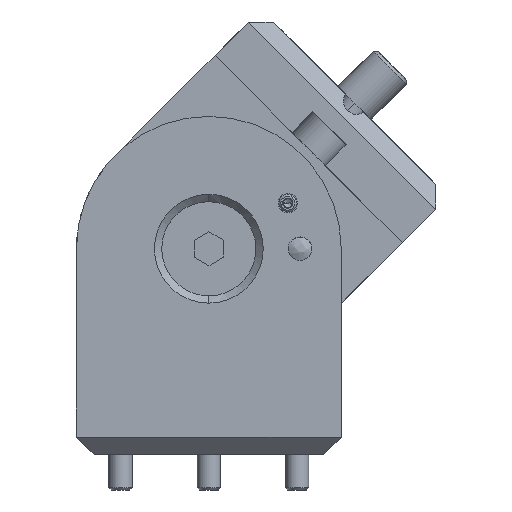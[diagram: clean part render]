
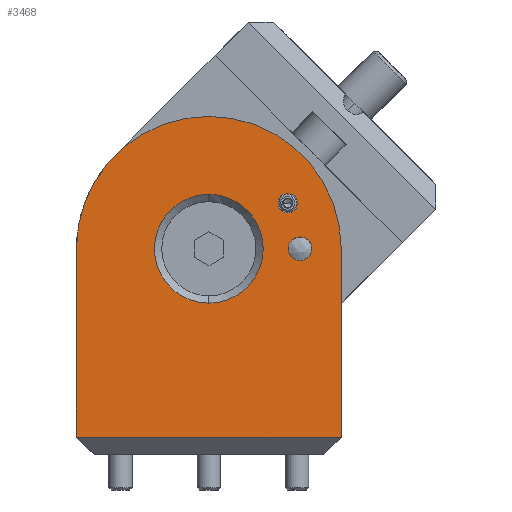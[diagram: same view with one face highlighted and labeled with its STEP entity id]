
A CAD part, left-side view. The second image highlights one B-rep face of the part: STEP entity #3468.
In plain terms, the highlighted planar face has unit normal (-1, 0, 0).
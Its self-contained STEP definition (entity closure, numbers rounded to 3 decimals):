
#70 = VERTEX_POINT ( 'NONE', #2937 ) ;
#89 = DIRECTION ( 'NONE',  ( -1., 0., 0. ) ) ;
#225 = VECTOR ( 'NONE', #3455, 1000. ) ;
#270 = ORIENTED_EDGE ( 'NONE', *, *, #575, .F. ) ;
#289 = ORIENTED_EDGE ( 'NONE', *, *, #1909, .F. ) ;
#305 = CARTESIAN_POINT ( 'NONE',  ( -22.5, -13.423, 41.1 ) ) ;
#401 = DIRECTION ( 'NONE',  ( 0., 0., 1. ) ) ;
#444 = EDGE_CURVE ( 'NONE', #1555, #4509, #1574, .T. ) ;
#485 = LINE ( 'NONE', #3595, #5064 ) ;
#572 = EDGE_CURVE ( 'NONE', #3156, #1850, #485, .T. ) ;
#574 = EDGE_LOOP ( 'NONE', ( #2876, #5026 ) ) ;
#575 = EDGE_CURVE ( 'NONE', #727, #3156, #1605, .T. ) ;
#624 = AXIS2_PLACEMENT_3D ( 'NONE', #4617, #3788, #1492 ) ;
#727 = VERTEX_POINT ( 'NONE', #1987 ) ;
#806 = CARTESIAN_POINT ( 'NONE',  ( -22.5, -13.423, 42.75 ) ) ;
#845 = AXIS2_PLACEMENT_3D ( 'NONE', #4433, #899, #3609 ) ;
#899 = DIRECTION ( 'NONE',  ( -1., 0., 0. ) ) ;
#921 = CARTESIAN_POINT ( 'NONE',  ( -22.5, -15.5, 35. ) ) ;
#1011 = CARTESIAN_POINT ( 'NONE',  ( -22.5, 22.5, 3. ) ) ;
#1064 = EDGE_CURVE ( 'NONE', #3342, #2685, #2045, .T. ) ;
#1147 = CIRCLE ( 'NONE', #1870, 22.5 ) ;
#1274 = AXIS2_PLACEMENT_3D ( 'NONE', #1683, #3332, #2177 ) ;
#1433 = DIRECTION ( 'NONE',  ( 0., 0., 1. ) ) ;
#1492 = DIRECTION ( 'NONE',  ( 0., 0., 1. ) ) ;
#1555 = VERTEX_POINT ( 'NONE', #3773 ) ;
#1574 = CIRCLE ( 'NONE', #3127, 9.25 ) ;
#1587 = CARTESIAN_POINT ( 'NONE',  ( -22.5, 0., 25.75 ) ) ;
#1605 = LINE ( 'NONE', #2066, #2420 ) ;
#1683 = CARTESIAN_POINT ( 'NONE',  ( -22.5, -22.5, 11. ) ) ;
#1717 = EDGE_CURVE ( 'NONE', #3566, #727, #2659, .T. ) ;
#1850 = VERTEX_POINT ( 'NONE', #4015 ) ;
#1868 = ORIENTED_EDGE ( 'NONE', *, *, #1064, .F. ) ;
#1870 = AXIS2_PLACEMENT_3D ( 'NONE', #3555, #2854, #3970 ) ;
#1908 = EDGE_CURVE ( 'NONE', #1850, #3566, #1147, .T. ) ;
#1909 = EDGE_CURVE ( 'NONE', #2685, #3342, #3858, .T. ) ;
#1942 = VERTEX_POINT ( 'NONE', #2207 ) ;
#1970 = ORIENTED_EDGE ( 'NONE', *, *, #1908, .F. ) ;
#1976 = CARTESIAN_POINT ( 'NONE',  ( -22.5, -13.423, 44.4 ) ) ;
#1987 = CARTESIAN_POINT ( 'NONE',  ( -22.5, -22.5, 3. ) ) ;
#2045 = CIRCLE ( 'NONE', #4934, 1.65 ) ;
#2066 = CARTESIAN_POINT ( 'NONE',  ( -22.5, -22.5, 3. ) ) ;
#2074 = PLANE ( 'NONE',  #1274 ) ;
#2177 = DIRECTION ( 'NONE',  ( 0., 0., -1. ) ) ;
#2207 = CARTESIAN_POINT ( 'NONE',  ( -22.5, -15.5, 37. ) ) ;
#2228 = CARTESIAN_POINT ( 'NONE',  ( -22.5, -15.5, 35. ) ) ;
#2294 = CARTESIAN_POINT ( 'NONE',  ( -22.5, -22.5, 11. ) ) ;
#2420 = VECTOR ( 'NONE', #4736, 1000. ) ;
#2509 = FACE_BOUND ( 'NONE', #574, .T. ) ;
#2533 = DIRECTION ( 'NONE',  ( -1., 0., 0. ) ) ;
#2534 = FACE_OUTER_BOUND ( 'NONE', #5054, .T. ) ;
#2547 = EDGE_CURVE ( 'NONE', #70, #1942, #4615, .T. ) ;
#2619 = CARTESIAN_POINT ( 'NONE',  ( -22.5, 0., 35. ) ) ;
#2659 = LINE ( 'NONE', #2294, #225 ) ;
#2685 = VERTEX_POINT ( 'NONE', #305 ) ;
#2707 = ORIENTED_EDGE ( 'NONE', *, *, #3741, .F. ) ;
#2833 = CIRCLE ( 'NONE', #624, 9.25 ) ;
#2854 = DIRECTION ( 'NONE',  ( 1., 0., 0. ) ) ;
#2876 = ORIENTED_EDGE ( 'NONE', *, *, #4334, .F. ) ;
#2937 = CARTESIAN_POINT ( 'NONE',  ( -22.5, -15.5, 33. ) ) ;
#3101 = ORIENTED_EDGE ( 'NONE', *, *, #444, .F. ) ;
#3127 = AXIS2_PLACEMENT_3D ( 'NONE', #2619, #2533, #4189 ) ;
#3156 = VERTEX_POINT ( 'NONE', #1011 ) ;
#3253 = CIRCLE ( 'NONE', #3835, 2. ) ;
#3332 = DIRECTION ( 'NONE',  ( 1., 0., 0. ) ) ;
#3342 = VERTEX_POINT ( 'NONE', #1976 ) ;
#3402 = ORIENTED_EDGE ( 'NONE', *, *, #1717, .F. ) ;
#3415 = DIRECTION ( 'NONE',  ( -1., 0., 0. ) ) ;
#3455 = DIRECTION ( 'NONE',  ( 0., 0., -1. ) ) ;
#3468 = ADVANCED_FACE ( 'NONE', ( #4816, #2509, #4055, #2534 ), #2074, .F. ) ;
#3473 = ORIENTED_EDGE ( 'NONE', *, *, #572, .F. ) ;
#3555 = CARTESIAN_POINT ( 'NONE',  ( -22.5, 0., 35. ) ) ;
#3564 = DIRECTION ( 'NONE',  ( 0., 0., 1. ) ) ;
#3566 = VERTEX_POINT ( 'NONE', #4938 ) ;
#3595 = CARTESIAN_POINT ( 'NONE',  ( -22.5, 22.5, 11. ) ) ;
#3609 = DIRECTION ( 'NONE',  ( 0., 0., 1. ) ) ;
#3741 = EDGE_CURVE ( 'NONE', #4509, #1555, #2833, .T. ) ;
#3773 = CARTESIAN_POINT ( 'NONE',  ( -22.5, 0., 44.25 ) ) ;
#3788 = DIRECTION ( 'NONE',  ( -1., 0., 0. ) ) ;
#3835 = AXIS2_PLACEMENT_3D ( 'NONE', #2228, #3415, #5014 ) ;
#3858 = CIRCLE ( 'NONE', #845, 1.65 ) ;
#3861 = EDGE_LOOP ( 'NONE', ( #1868, #289 ) ) ;
#3970 = DIRECTION ( 'NONE',  ( 0., 0., -1. ) ) ;
#4015 = CARTESIAN_POINT ( 'NONE',  ( -22.5, 22.5, 35. ) ) ;
#4055 = FACE_BOUND ( 'NONE', #4147, .T. ) ;
#4147 = EDGE_LOOP ( 'NONE', ( #3101, #2707 ) ) ;
#4189 = DIRECTION ( 'NONE',  ( 0., 0., 1. ) ) ;
#4334 = EDGE_CURVE ( 'NONE', #1942, #70, #3253, .T. ) ;
#4433 = CARTESIAN_POINT ( 'NONE',  ( -22.5, -13.423, 42.75 ) ) ;
#4509 = VERTEX_POINT ( 'NONE', #1587 ) ;
#4615 = CIRCLE ( 'NONE', #4936, 2. ) ;
#4617 = CARTESIAN_POINT ( 'NONE',  ( -22.5, 0., 35. ) ) ;
#4736 = DIRECTION ( 'NONE',  ( 0., 1., 0. ) ) ;
#4816 = FACE_BOUND ( 'NONE', #3861, .T. ) ;
#4934 = AXIS2_PLACEMENT_3D ( 'NONE', #806, #89, #401 ) ;
#4936 = AXIS2_PLACEMENT_3D ( 'NONE', #921, #5010, #1433 ) ;
#4938 = CARTESIAN_POINT ( 'NONE',  ( -22.5, -22.5, 35. ) ) ;
#5010 = DIRECTION ( 'NONE',  ( -1., 0., 0. ) ) ;
#5014 = DIRECTION ( 'NONE',  ( 0., 0., 1. ) ) ;
#5026 = ORIENTED_EDGE ( 'NONE', *, *, #2547, .F. ) ;
#5054 = EDGE_LOOP ( 'NONE', ( #270, #3402, #1970, #3473 ) ) ;
#5064 = VECTOR ( 'NONE', #3564, 1000. ) ;
